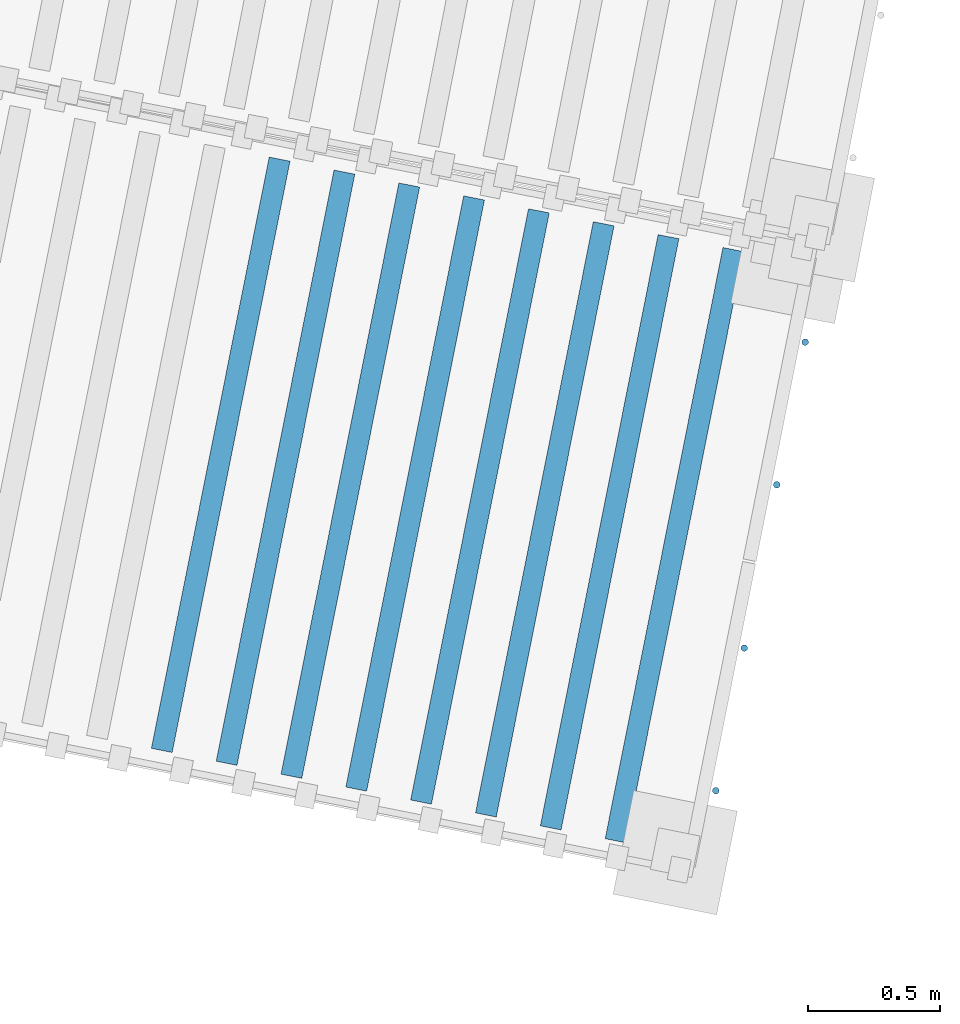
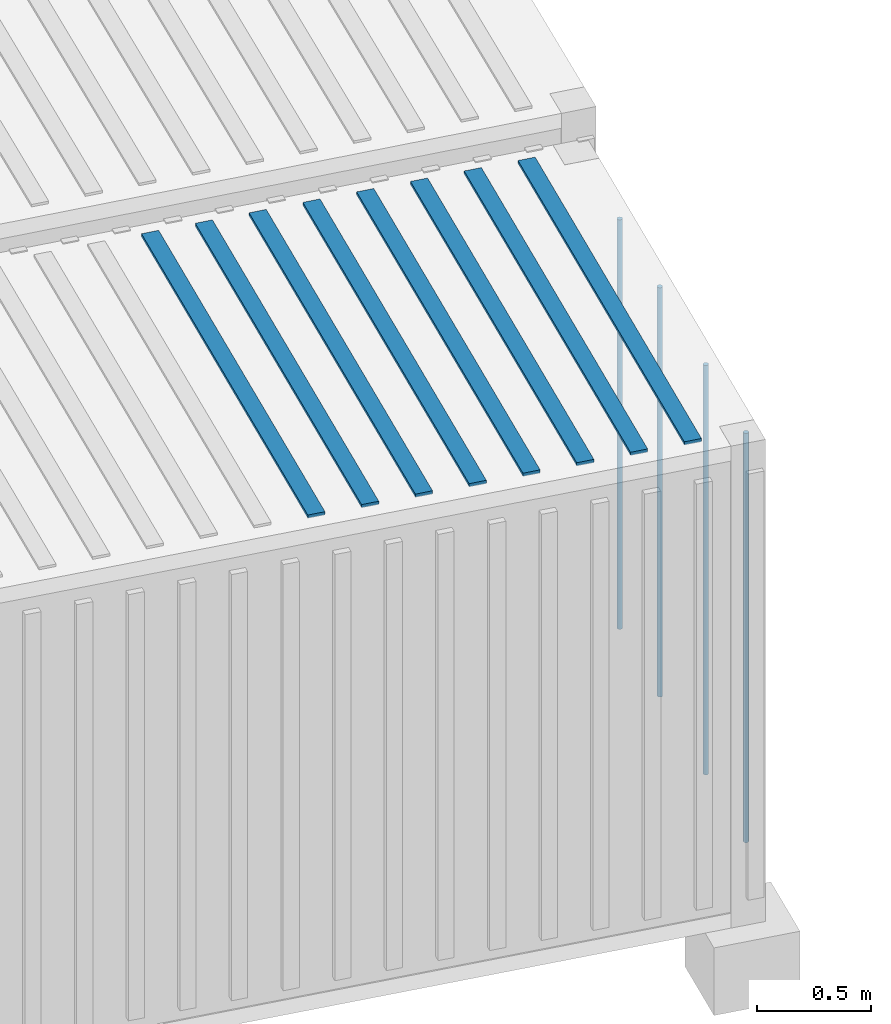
# One storey, part 28 of 143: 12 members, 1 element without a shape of its own.
"""IFC4 building model written with IfcOpenShell, lengths in metres."""

from ifc_helpers import new_model, si_unit, direction, frame, origin_with_axes, place, context, subcontext, project, spatial, polyline, circle, outline, extrude, material, material_profile, profile_set, profile_usage, type_object, element, aggregate, save


model = new_model("IFC4")

# Units and contexts
model_context = context("Model", 3, precision=1e-05, world=origin_with_axes(), true_north=direction((0.0, 1.0)))
body_context = subcontext(model_context, "Body", "Model", "MODEL_VIEW")
ifc_project = project(units=[si_unit("VOLUMEUNIT", "CUBIC_METRE"), si_unit("LENGTHUNIT", "METRE"), si_unit("AREAUNIT", "SQUARE_METRE")], contexts=[model_context])

# Site, building, storey
site_placement = place(None, origin_with_axes())
site = spatial("IfcSite", under=ifc_project, at=site_placement, Name="Lares · Rua das Mercês · artigo 4771")
building_placement = place(site_placement, frame((15.0, 9.7, 15.8), z_axis=(0.0, 0.0, 1.0), x_axis=(0.989015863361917, -0.147809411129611, 0.0)))
building = spatial("IfcBuilding", under=site, at=building_placement, Name="Casa Sobreposta")
storey_placement = place(building_placement, origin_with_axes())
storey = spatial("IfcBuildingStorey", under=building, at=storey_placement, Name="00 · Habitação e estacionamento", Elevation=15.8)

# Assembly, members
assembly_placement = place(storey_placement, frame((-14.5932944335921, 6.63122214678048, 0.0), z_axis=(0.0, 0.0, 1.0), x_axis=(0.998832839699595, -0.0483007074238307, 0.0)))
assembly = element("IfcElementAssembly", 1, at=assembly_placement, inside=storey, Name="Contentor existente 2 · 6 m", ObjectType="EXISTING_SHIPPING_CONTAINER", PredefinedType="USERDEFINED")
ifc_material_1 = material(Name="Aço galvanizado / Stahl verzinkt", Category="steel")
ifc_material_profile = material_profile(ifc_material_1, circle(Radius=0.0125))
ifc_profile_set = profile_set([ifc_material_profile], Name="D0.025")
ifc_profile_usage_1 = profile_usage(ifc_profile_set)
member_type = type_object("IfcMemberType", Name="D0.025 / galvanized", PredefinedType="NOTDEFINED", material=ifc_profile_set)
member_1_placement = place(assembly_placement, frame((6.025, 0.34, -2.11875169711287), z_axis=(0.0, 0.0, 1.0), x_axis=(1.0, 0.0, 0.0)))
member_1 = element("IfcMember", 2, at=member_1_placement, type_object=member_type, material=ifc_profile_usage_1, Name="Contentor · varão de fecho", context=body_context, shape_type="SweptSolid", body=[
    extrude(circle(Radius=0.0125), origin_with_axes(), (0.0, 0.0, 1.0), 2.2),
])
ifc_profile_usage_2 = profile_usage(ifc_profile_set)
member_2_placement = place(assembly_placement, frame((6.025, 0.89, -2.11875169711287), z_axis=(0.0, 0.0, 1.0), x_axis=(1.0, 0.0, 0.0)))
member_2 = element("IfcMember", 3, at=member_2_placement, type_object=member_type, material=ifc_profile_usage_2, Name="Contentor · varão de fecho", context=body_context, shape_type="SweptSolid", body=[
    extrude(circle(Radius=0.0125), origin_with_axes(), (0.0, 0.0, 1.0), 2.2),
])
ifc_profile_usage_3 = profile_usage(ifc_profile_set)
member_3_placement = place(assembly_placement, frame((6.025, 1.52, -2.11875169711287), z_axis=(0.0, 0.0, 1.0), x_axis=(1.0, 0.0, 0.0)))
member_3 = element("IfcMember", 4, at=member_3_placement, type_object=member_type, material=ifc_profile_usage_3, Name="Contentor · varão de fecho", context=body_context, shape_type="SweptSolid", body=[
    extrude(circle(Radius=0.0125), origin_with_axes(), (0.0, 0.0, 1.0), 2.2),
])
ifc_profile_usage_4 = profile_usage(ifc_profile_set)
member_4_placement = place(assembly_placement, frame((6.025, 2.07, -2.11875169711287), z_axis=(0.0, 0.0, 1.0), x_axis=(1.0, 0.0, 0.0)))
member_4 = element("IfcMember", 5, at=member_4_placement, type_object=member_type, material=ifc_profile_usage_4, Name="Contentor · varão de fecho", context=body_context, shape_type="SweptSolid", body=[
    extrude(circle(Radius=0.0125), origin_with_axes(), (0.0, 0.0, 1.0), 2.2),
])
ifc_material_2 = material(Name="Contentor · pintura 2", Category="steel")
member_5_placement = place(assembly_placement, frame((0.0, 0.0, 0.266248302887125), z_axis=(0.0, 0.0, 1.0), x_axis=(1.0, 0.0, 0.0)))
member_5 = element("IfcMember", 6, at=member_5_placement, material=ifc_material_2, Name="Contentor · nervura cobertura", context=body_context, shape_type="SweptSolid", body=[
    extrude(outline(polyline([(3.98, 0.08), (3.98, 2.36), (3.9, 2.36), (3.9, 0.08), (3.98, 0.08)])), origin_with_axes(), (0.0, 0.0, 1.0), 0.018),
])
member_6_placement = place(assembly_placement, frame((0.0, 0.0, 0.266248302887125), z_axis=(0.0, 0.0, 1.0), x_axis=(1.0, 0.0, 0.0)))
member_6 = element("IfcMember", 7, at=member_6_placement, material=ifc_material_2, Name="Contentor · nervura cobertura", context=body_context, shape_type="SweptSolid", body=[
    extrude(outline(polyline([(4.23, 0.08), (4.23, 2.36), (4.15, 2.36), (4.15, 0.08), (4.23, 0.08)])), origin_with_axes(), (0.0, 0.0, 1.0), 0.018),
])
member_7_placement = place(assembly_placement, frame((0.0, 0.0, 0.266248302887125), z_axis=(0.0, 0.0, 1.0), x_axis=(1.0, 0.0, 0.0)))
member_7 = element("IfcMember", 8, at=member_7_placement, material=ifc_material_2, Name="Contentor · nervura cobertura", context=body_context, shape_type="SweptSolid", body=[
    extrude(outline(polyline([(4.48, 0.08), (4.48, 2.36), (4.4, 2.36), (4.4, 0.08), (4.48, 0.08)])), origin_with_axes(), (0.0, 0.0, 1.0), 0.018),
])
member_8_placement = place(assembly_placement, frame((0.0, 0.0, 0.266248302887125), z_axis=(0.0, 0.0, 1.0), x_axis=(1.0, 0.0, 0.0)))
member_8 = element("IfcMember", 9, at=member_8_placement, material=ifc_material_2, Name="Contentor · nervura cobertura", context=body_context, shape_type="SweptSolid", body=[
    extrude(outline(polyline([(4.73, 0.08), (4.73, 2.36), (4.65, 2.36), (4.65, 0.08), (4.73, 0.08)])), origin_with_axes(), (0.0, 0.0, 1.0), 0.018),
])
member_9_placement = place(assembly_placement, frame((0.0, 0.0, 0.266248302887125), z_axis=(0.0, 0.0, 1.0), x_axis=(1.0, 0.0, 0.0)))
member_9 = element("IfcMember", 10, at=member_9_placement, material=ifc_material_2, Name="Contentor · nervura cobertura", context=body_context, shape_type="SweptSolid", body=[
    extrude(outline(polyline([(4.98, 0.08), (4.98, 2.36), (4.9, 2.36), (4.9, 0.08), (4.98, 0.08)])), origin_with_axes(), (0.0, 0.0, 1.0), 0.018),
])
member_10_placement = place(assembly_placement, frame((0.0, 0.0, 0.266248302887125), z_axis=(0.0, 0.0, 1.0), x_axis=(1.0, 0.0, 0.0)))
member_10 = element("IfcMember", 11, at=member_10_placement, material=ifc_material_2, Name="Contentor · nervura cobertura", context=body_context, shape_type="SweptSolid", body=[
    extrude(outline(polyline([(5.23, 0.08), (5.23, 2.36), (5.15, 2.36), (5.15, 0.08), (5.23, 0.08)])), origin_with_axes(), (0.0, 0.0, 1.0), 0.018),
])
member_11_placement = place(assembly_placement, frame((0.0, 0.0, 0.266248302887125), z_axis=(0.0, 0.0, 1.0), x_axis=(1.0, 0.0, 0.0)))
member_11 = element("IfcMember", 12, at=member_11_placement, material=ifc_material_2, Name="Contentor · nervura cobertura", context=body_context, shape_type="SweptSolid", body=[
    extrude(outline(polyline([(5.48, 0.08), (5.48, 2.36), (5.4, 2.36), (5.4, 0.08), (5.48, 0.08)])), origin_with_axes(), (0.0, 0.0, 1.0), 0.018),
])
member_12_placement = place(assembly_placement, frame((0.0, 0.0, 0.266248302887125), z_axis=(0.0, 0.0, 1.0), x_axis=(1.0, 0.0, 0.0)))
member_12 = element("IfcMember", 13, at=member_12_placement, material=ifc_material_2, Name="Contentor · nervura cobertura", context=body_context, shape_type="SweptSolid", body=[
    extrude(outline(polyline([(5.73, 0.08), (5.73, 2.36), (5.65, 2.36), (5.65, 0.08), (5.73, 0.08)])), origin_with_axes(), (0.0, 0.0, 1.0), 0.018),
])
aggregate(assembly, [member_1, member_2, member_3, member_4, member_5, member_6, member_7, member_8, member_9, member_10, member_11, member_12])

save(model, "model.ifc")
